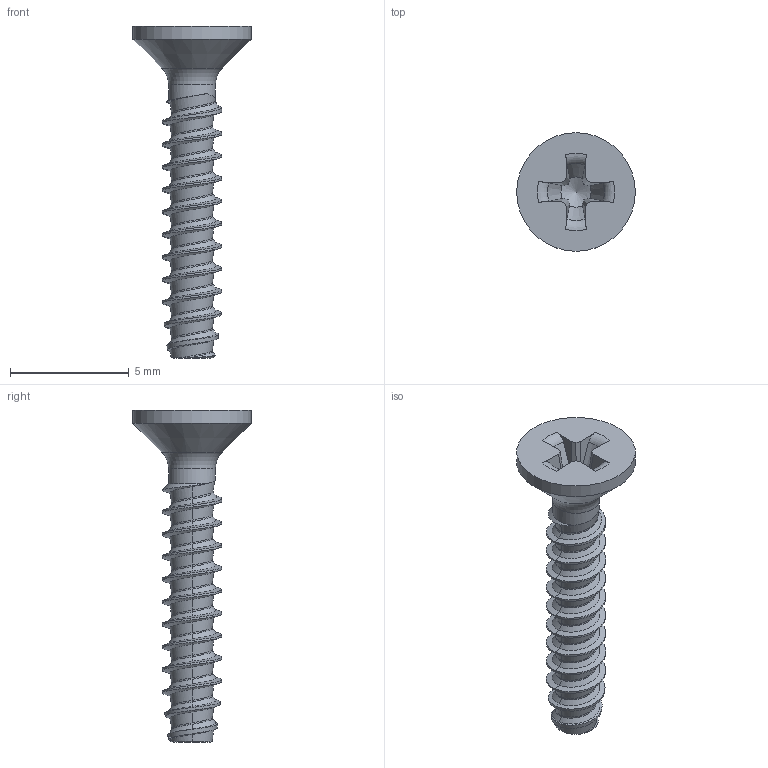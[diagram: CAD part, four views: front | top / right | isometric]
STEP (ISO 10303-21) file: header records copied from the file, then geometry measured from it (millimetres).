
FILE_DESCRIPTION(/* description */ (''),/* implementation_level */ '2;1');
FILE_NAME(/* name */ 'KN6041-STSplus-25x14-H1.step',/* time_stamp */ '2017-10-12T11:27:36+02:00',/* author */ (''),/* organization */ (''),/* preprocessor_version */ 'ST-DEVELOPER v16',/* originating_system */ 'SIEMENS PLM Software NX 10.0',/* authorisation */ '');
FILE_SCHEMA (('AUTOMOTIVE_DESIGN { 1 0 10303 214 3 1 1 1 }'));
Length unit declared in the file: millimetre
Products named in the file (1): KN6041-STSplus-25x14-H1
Bounding box: 5 x 5 x 14 mm (x, y, z)
Surface area: 169.7 mm2 (no closed solid volume)
Topology: 0 solids, 1 shells, 87 faces, 231 edges, 145 vertices
Faces by surface type: bspline 51, plane 18, cone 8, torus 6, cylinder 4
Full cylindrical faces by diameter (mm): 1.97 x1, 5 x1
Entity records: 5650 total; most frequent: CARTESIAN_POINT 3931, ORIENTED_EDGE 434, EDGE_CURVE 217, DIRECTION 190, VERTEX_POINT 139, B_SPLINE_CURVE_WITH_KNOTS 122, EDGE_LOOP 93, ADVANCED_FACE 87
